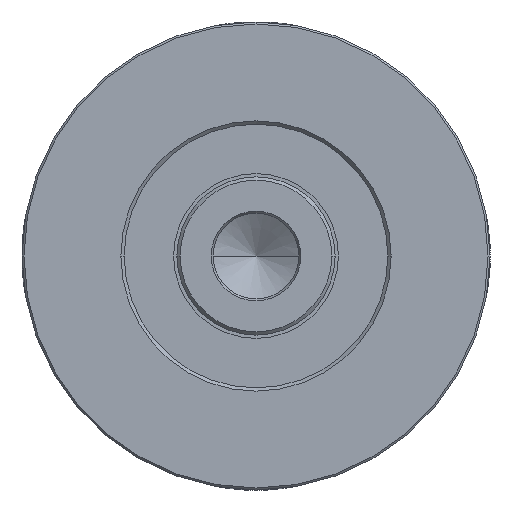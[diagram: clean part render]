
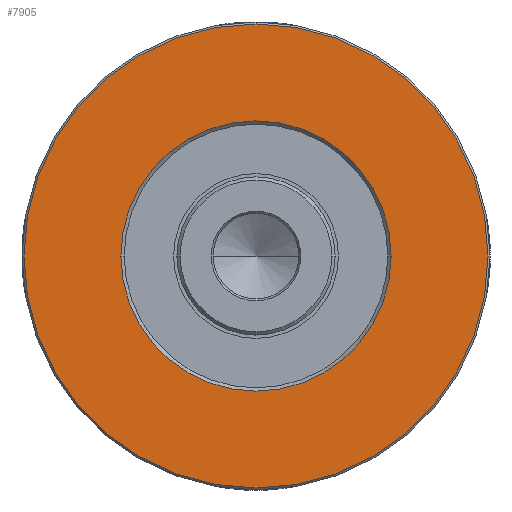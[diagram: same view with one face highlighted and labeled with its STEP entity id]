
A CAD part, left-side view. The second image highlights one B-rep face of the part: STEP entity #7905.
In plain terms, the highlighted planar face has unit normal (-1, 0, 0).
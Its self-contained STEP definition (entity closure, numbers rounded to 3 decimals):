
#7318=CARTESIAN_POINT('',(-4.,0.,0.));
#7319=DIRECTION('',(-1.,0.,0.));
#7320=DIRECTION('',(0.,1.,0.));
#7321=AXIS2_PLACEMENT_3D('',#7318,#7319,#7320);
#7326=CARTESIAN_POINT('',(-4.,0.,0.));
#7327=DIRECTION('',(1.,0.,0.));
#7328=DIRECTION('',(0.,1.,0.));
#7329=AXIS2_PLACEMENT_3D('',#7326,#7327,#7328);
#7334=CARTESIAN_POINT('',(-4.,0.,0.));
#7335=DIRECTION('',(1.,0.,0.));
#7336=DIRECTION('',(0.,1.,0.));
#7337=AXIS2_PLACEMENT_3D('',#7334,#7335,#7336);
#7356=CARTESIAN_POINT('',(-4.,0.,0.));
#7357=DIRECTION('',(-1.,0.,0.));
#7358=DIRECTION('',(0.,1.,0.));
#7359=AXIS2_PLACEMENT_3D('',#7356,#7357,#7358);
#7432=CARTESIAN_POINT('',(-4.,20.5,0.));
#7433=VERTEX_POINT('',#7432);
#7434=CARTESIAN_POINT('',(-4.,-20.5,0.));
#7435=VERTEX_POINT('',#7434);
#7436=CARTESIAN_POINT('',(-4.,35.2,0.));
#7437=VERTEX_POINT('',#7436);
#7438=CARTESIAN_POINT('',(-4.,-35.2,0.));
#7439=VERTEX_POINT('',#7438);
#7890=CARTESIAN_POINT('',(-4.,0.,0.));
#7891=DIRECTION('',(1.,0.,0.));
#7892=DIRECTION('',(0.,-1.,0.));
#7893=AXIS2_PLACEMENT_3D('',#7890,#7891,#7892);
#7894=PLANE('',#7893);
#7895=ORIENTED_EDGE('',*,*,#7869,.F.);
#7896=ORIENTED_EDGE('',*,*,#7885,.T.);
#7897=EDGE_LOOP('',(#7895,#7896));
#7898=FACE_OUTER_BOUND('',#7897,.F.);
#7900=ORIENTED_EDGE('',*,*,#7899,.F.);
#7902=ORIENTED_EDGE('',*,*,#7901,.T.);
#7903=EDGE_LOOP('',(#7900,#7902));
#7904=FACE_BOUND('',#7903,.F.);
#7322=CIRCLE('',#7321,35.2);
#7330=CIRCLE('',#7329,35.2);
#7338=CIRCLE('',#7337,20.5);
#7360=CIRCLE('',#7359,20.5);
#7869=EDGE_CURVE('',#7437,#7439,#7322,.T.);
#7885=EDGE_CURVE('',#7437,#7439,#7330,.T.);
#7899=EDGE_CURVE('',#7433,#7435,#7338,.T.);
#7901=EDGE_CURVE('',#7433,#7435,#7360,.T.);
#7905=ADVANCED_FACE('',(#7898,#7904),#7894,.F.);
